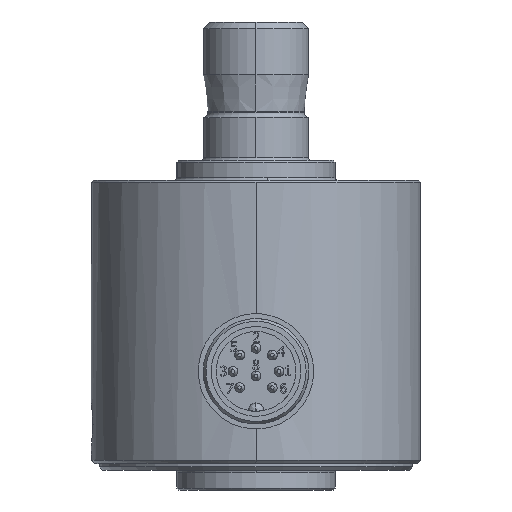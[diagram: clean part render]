
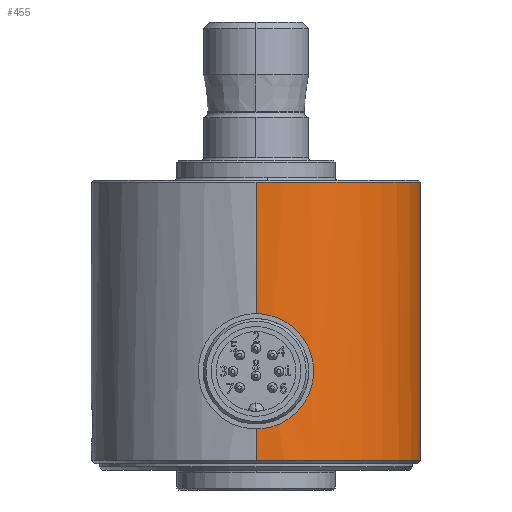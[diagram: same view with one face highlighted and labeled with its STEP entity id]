
A CAD part, left-side view. The second image highlights one B-rep face of the part: STEP entity #455.
In plain terms, the highlighted cylindrical face has radius 25 mm (diameter 50 mm), a partial arc.
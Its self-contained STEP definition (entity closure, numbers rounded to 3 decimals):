
#455=ADVANCED_FACE('',(#1119),#1120,.T.);
#1119=FACE_OUTER_BOUND('',#2532,.T.);
#1120=CYLINDRICAL_SURFACE('',#2533,25.0);
#2532=EDGE_LOOP('',(#4806,#4807,#4808,#4809,#4810,#4811,#4812,#4813,#4814));
#2533=AXIS2_PLACEMENT_3D('',#4815,#4816,#4817);
#4806=ORIENTED_EDGE('',*,*,#6066,.T.);
#4807=ORIENTED_EDGE('',*,*,#6096,.F.);
#4808=ORIENTED_EDGE('',*,*,#6012,.F.);
#4809=ORIENTED_EDGE('',*,*,#6069,.T.);
#4810=ORIENTED_EDGE('',*,*,#6097,.T.);
#4811=ORIENTED_EDGE('',*,*,#6098,.T.);
#4812=ORIENTED_EDGE('',*,*,#5985,.T.);
#4813=ORIENTED_EDGE('',*,*,#6067,.T.);
#4814=ORIENTED_EDGE('',*,*,#6099,.F.);
#4815=CARTESIAN_POINT('',(0.,0.,-1.0));
#4816=DIRECTION('',(0.0,0.,1.0));
#4817=DIRECTION('',(1.0,0.0,0.0));
#5985=EDGE_CURVE('',#7423,#7421,#7424,.T.);
#6012=EDGE_CURVE('',#7471,#7465,#7473,.T.);
#6066=EDGE_CURVE('',#7556,#7573,#7574,.T.);
#6067=EDGE_CURVE('',#7421,#7560,#7575,.T.);
#6069=EDGE_CURVE('',#7471,#7576,#7578,.T.);
#6096=EDGE_CURVE('',#7465,#7573,#7615,.T.);
#6097=EDGE_CURVE('',#7576,#7616,#7617,.T.);
#6098=EDGE_CURVE('',#7616,#7423,#7618,.T.);
#6099=EDGE_CURVE('',#7556,#7560,#7619,.T.);
#7421=VERTEX_POINT('',#11322);
#7423=VERTEX_POINT('',#11341);
#7424=B_SPLINE_CURVE_WITH_KNOTS('',3,(#11342,#11343,#11344,#11345),.UNSPECIFIED.,.F.,.F.,(4,4),(0.287,0.301),.UNSPECIFIED.);
#7465=VERTEX_POINT('',#11410);
#7471=VERTEX_POINT('',#11418);
#7473=CIRCLE('',#11420,25.0);
#7556=VERTEX_POINT('',#11572);
#7560=VERTEX_POINT('',#11577);
#7573=VERTEX_POINT('',#11661);
#7574=LINE('',#11662,#11663);
#7575=LINE('',#11664,#11665);
#7576=VERTEX_POINT('',#11666);
#7578=LINE('',#11671,#11672);
#7615=CIRCLE('',#11734,25.0);
#7616=VERTEX_POINT('',#11735);
#7617=B_SPLINE_CURVE_WITH_KNOTS('',3,(#11736,#11737,#11738,#11739,#11740,#11741,#11742,#11743,#11744,#11745),.UNSPECIFIED.,.F.,.F.,(4,2,2,2,4),(0.904,0.98,1.055,1.131,1.206),.UNSPECIFIED.);
#7618=B_SPLINE_CURVE_WITH_KNOTS('',3,(#11746,#11747,#11748,#11749,#11750,#11751,#11752,#11753,#11754,#11755),.UNSPECIFIED.,.F.,.F.,(4,2,2,2,4),(0.0,0.075,0.151,0.226,0.287),.UNSPECIFIED.);
#7619=CIRCLE('',#11756,25.0);
#11322=CARTESIAN_POINT('',(-25.0,0.,11.0));
#11341=CARTESIAN_POINT('',(-25.,-0.143,11.005));
#11342=CARTESIAN_POINT('',(-25.,-0.143,11.005));
#11343=CARTESIAN_POINT('',(-25.,-0.095,11.002));
#11344=CARTESIAN_POINT('',(-25.0,-0.047,11.0));
#11345=CARTESIAN_POINT('',(-25.0,0.,11.0));
#11410=CARTESIAN_POINT('',(3.549,-24.747,41.7));
#11418=CARTESIAN_POINT('',(-25.0,0.,41.7));
#11420=AXIS2_PLACEMENT_3D('',#14571,#14572,#14573);
#11572=CARTESIAN_POINT('',(25.0,0.,-0.5));
#11577=CARTESIAN_POINT('',(-25.0,0.,-0.5));
#11661=CARTESIAN_POINT('',(25.0,0.,41.7));
#11662=CARTESIAN_POINT('',(25.0,0.,20.6));
#11663=VECTOR('',#14671,1.0);
#11664=CARTESIAN_POINT('',(-25.0,0.,20.6));
#11665=VECTOR('',#14672,1.0);
#11666=CARTESIAN_POINT('',(-25.0,0.,15.0));
#11671=CARTESIAN_POINT('',(-25.0,0.,20.6));
#11672=VECTOR('',#14673,1.0);
#11734=AXIS2_PLACEMENT_3D('',#14733,#14734,#14735);
#11735=CARTESIAN_POINT('',(-24.92,-2.,13.0));
#11736=CARTESIAN_POINT('',(-25.0,0.,15.0));
#11737=CARTESIAN_POINT('',(-25.0,-0.251,15.0));
#11738=CARTESIAN_POINT('',(-24.996,-0.519,14.95));
#11739=CARTESIAN_POINT('',(-24.981,-1.012,14.746));
#11740=CARTESIAN_POINT('',(-24.97,-1.237,14.592));
#11741=CARTESIAN_POINT('',(-24.95,-1.592,14.237));
#11742=CARTESIAN_POINT('',(-24.939,-1.746,14.012));
#11743=CARTESIAN_POINT('',(-24.924,-1.95,13.519));
#11744=CARTESIAN_POINT('',(-24.92,-2.,13.251));
#11745=CARTESIAN_POINT('',(-24.92,-2.,13.0));
#11746=CARTESIAN_POINT('',(-24.92,-2.,13.0));
#11747=CARTESIAN_POINT('',(-24.92,-2.,12.749));
#11748=CARTESIAN_POINT('',(-24.924,-1.95,12.481));
#11749=CARTESIAN_POINT('',(-24.939,-1.746,11.988));
#11750=CARTESIAN_POINT('',(-24.95,-1.592,11.763));
#11751=CARTESIAN_POINT('',(-24.97,-1.237,11.408));
#11752=CARTESIAN_POINT('',(-24.981,-1.012,11.254));
#11753=CARTESIAN_POINT('',(-24.994,-0.565,11.069));
#11754=CARTESIAN_POINT('',(-24.998,-0.351,11.02));
#11755=CARTESIAN_POINT('',(-25.,-0.143,11.005));
#11756=AXIS2_PLACEMENT_3D('',#14736,#14737,#14738);
#14571=CARTESIAN_POINT('',(0.,0.,41.7));
#14572=DIRECTION('',(0.,0.,1.0));
#14573=DIRECTION('',(0.142,-0.99,0.));
#14671=DIRECTION('',(0.0,0.,1.0));
#14672=DIRECTION('',(0.0,0.,-1.0));
#14673=DIRECTION('',(0.0,0.,-1.0));
#14733=CARTESIAN_POINT('',(0.,0.,41.7));
#14734=DIRECTION('',(0.,0.,1.0));
#14735=DIRECTION('',(0.142,-0.99,0.));
#14736=CARTESIAN_POINT('',(0.,0.,-0.5));
#14737=DIRECTION('',(0.0,0.0,-1.0));
#14738=DIRECTION('',(1.0,0.0,0.0));
